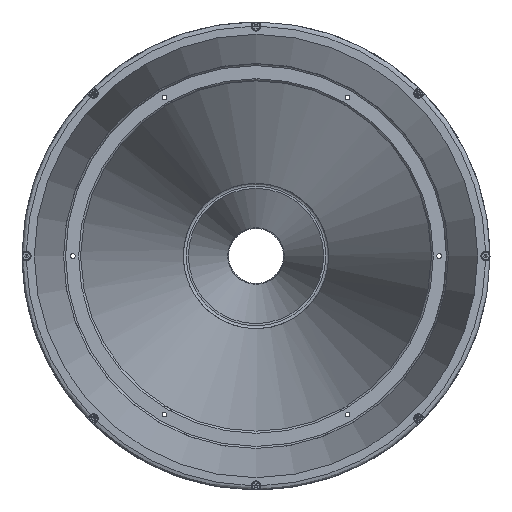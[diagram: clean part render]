
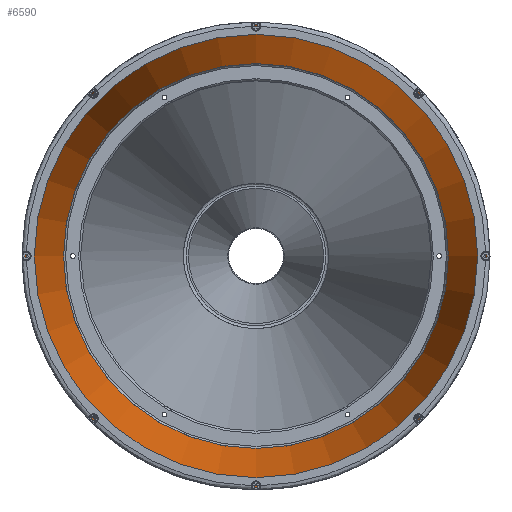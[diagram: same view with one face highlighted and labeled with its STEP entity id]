
A CAD part, left-side view. The second image highlights one B-rep face of the part: STEP entity #6590.
In plain terms, the highlighted face is a revolution surface.
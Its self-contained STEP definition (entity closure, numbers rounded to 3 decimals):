
#6590 = ADVANCED_FACE('',(#6591),#6604,.T.);
#6591 = FACE_BOUND('',#6592,.T.);
#6592 = EDGE_LOOP('',(#6593,#6618,#6640,#6655));
#6593 = ORIENTED_EDGE('',*,*,#6594,.T.);
#6594 = EDGE_CURVE('',#6595,#6595,#6597,.T.);
#6595 = VERTEX_POINT('',#6596);
#6596 = CARTESIAN_POINT('',(-614.648,-159.719,
    0.));
#6597 = SURFACE_CURVE('',#6598,(#6603),.PCURVE_S1.);
#6598 = CIRCLE('',#6599,159.719);
#6599 = AXIS2_PLACEMENT_3D('',#6600,#6601,#6602);
#6600 = CARTESIAN_POINT('',(-614.648,0.,
    0.));
#6601 = DIRECTION('',(1.,0.,0.));
#6602 = DIRECTION('',(0.,-1.,0.));
#6603 = PCURVE('',#6604,#6612);
#6604 = SURFACE_OF_REVOLUTION('',#6605,#6609);
#6605 = LINE('',#6606,#6607);
#6606 = CARTESIAN_POINT('',(-614.648,159.719,
    0.));
#6607 = VECTOR('',#6608,1.);
#6608 = DIRECTION('',(0.974,-0.225,0.)
  );
#6609 = AXIS1_PLACEMENT('',#6610,#6611);
#6610 = CARTESIAN_POINT('',(503.68,0.,0.));
#6611 = DIRECTION('',(1.,0.,0.));
#6612 = DEFINITIONAL_REPRESENTATION('',(#6613),#6617);
#6613 = LINE('',#6614,#6615);
#6614 = CARTESIAN_POINT('',(3.142,0.));
#6615 = VECTOR('',#6616,1.);
#6616 = DIRECTION('',(1.,0.));
#6617 = ( GEOMETRIC_REPRESENTATION_CONTEXT(2) 
PARAMETRIC_REPRESENTATION_CONTEXT() REPRESENTATION_CONTEXT('',''
  ) );
#6618 = ORIENTED_EDGE('',*,*,#6619,.T.);
#6619 = EDGE_CURVE('',#6595,#6620,#6622,.T.);
#6620 = VERTEX_POINT('',#6621);
#6621 = CARTESIAN_POINT('',(-496.32,-132.4,
    0.));
#6622 = SEAM_CURVE('',#6623,(#6626,#6633),.PCURVE_S1.);
#6623 = B_SPLINE_CURVE_WITH_KNOTS('',1,(#6624,#6625),.UNSPECIFIED.,.F.,
  .F.,(2,2),(0.,121.44),
  .PIECEWISE_BEZIER_KNOTS.);
#6624 = CARTESIAN_POINT('',(-614.648,-159.719,
    0.));
#6625 = CARTESIAN_POINT('',(-496.32,-132.4,
    0.));
#6626 = PCURVE('',#6604,#6627);
#6627 = DEFINITIONAL_REPRESENTATION('',(#6628),#6632);
#6628 = LINE('',#6629,#6630);
#6629 = CARTESIAN_POINT('',(9.425,0.));
#6630 = VECTOR('',#6631,1.);
#6631 = DIRECTION('',(0.,1.));
#6632 = ( GEOMETRIC_REPRESENTATION_CONTEXT(2) 
PARAMETRIC_REPRESENTATION_CONTEXT() REPRESENTATION_CONTEXT('',''
  ) );
#6633 = PCURVE('',#6604,#6634);
#6634 = DEFINITIONAL_REPRESENTATION('',(#6635),#6639);
#6635 = LINE('',#6636,#6637);
#6636 = CARTESIAN_POINT('',(3.142,0.));
#6637 = VECTOR('',#6638,1.);
#6638 = DIRECTION('',(0.,1.));
#6639 = ( GEOMETRIC_REPRESENTATION_CONTEXT(2) 
PARAMETRIC_REPRESENTATION_CONTEXT() REPRESENTATION_CONTEXT('',''
  ) );
#6640 = ORIENTED_EDGE('',*,*,#6641,.T.);
#6641 = EDGE_CURVE('',#6620,#6620,#6642,.T.);
#6642 = SURFACE_CURVE('',#6643,(#6648),.PCURVE_S1.);
#6643 = CIRCLE('',#6644,132.4);
#6644 = AXIS2_PLACEMENT_3D('',#6645,#6646,#6647);
#6645 = CARTESIAN_POINT('',(-496.32,0.,
    0.));
#6646 = DIRECTION('',(-1.,0.,0.));
#6647 = DIRECTION('',(0.,-1.,0.));
#6648 = PCURVE('',#6604,#6649);
#6649 = DEFINITIONAL_REPRESENTATION('',(#6650),#6654);
#6650 = LINE('',#6651,#6652);
#6651 = CARTESIAN_POINT('',(9.425,121.44));
#6652 = VECTOR('',#6653,1.);
#6653 = DIRECTION('',(-1.,0.));
#6654 = ( GEOMETRIC_REPRESENTATION_CONTEXT(2) 
PARAMETRIC_REPRESENTATION_CONTEXT() REPRESENTATION_CONTEXT('',''
  ) );
#6655 = ORIENTED_EDGE('',*,*,#6619,.F.);
